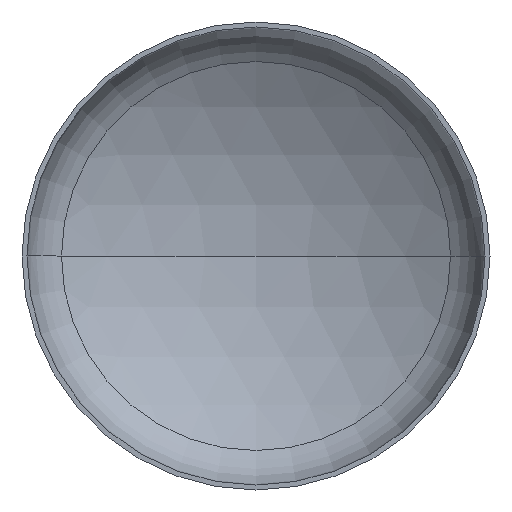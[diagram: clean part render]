
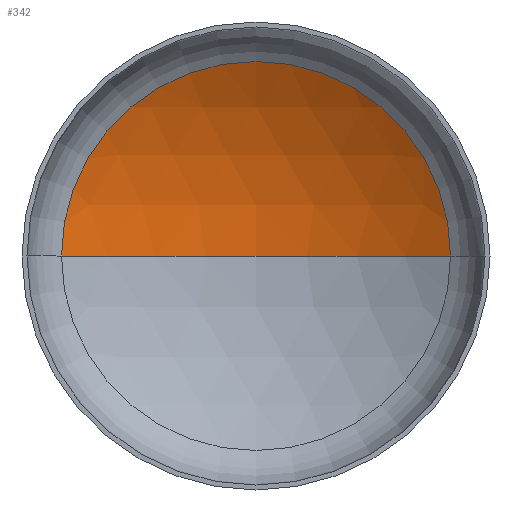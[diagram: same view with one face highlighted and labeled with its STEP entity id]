
A CAD part, front view. The second image highlights one B-rep face of the part: STEP entity #342.
In plain terms, the highlighted spherical face has radius 1200 mm.
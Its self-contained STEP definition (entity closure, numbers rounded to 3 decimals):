
#2 = DIRECTION ( 'NONE',  ( 0., 0., 1. ) ) ;
#18 = EDGE_LOOP ( 'NONE', ( #74, #63, #28 ) ) ;
#25 = AXIS2_PLACEMENT_3D ( 'NONE', #301, #400, #272 ) ;
#28 = ORIENTED_EDGE ( 'NONE', *, *, #170, .T. ) ;
#61 = VERTEX_POINT ( 'NONE', #358 ) ;
#63 = ORIENTED_EDGE ( 'NONE', *, *, #172, .T. ) ;
#74 = ORIENTED_EDGE ( 'NONE', *, *, #173, .F. ) ;
#101 = VERTEX_POINT ( 'NONE', #241 ) ;
#114 = VERTEX_POINT ( 'NONE', #239 ) ;
#116 = AXIS2_PLACEMENT_3D ( 'NONE', #300, #2, #245 ) ;
#122 = AXIS2_PLACEMENT_3D ( 'NONE', #193, #195, #196 ) ;
#124 = AXIS2_PLACEMENT_3D ( 'NONE', #225, #227, #214 ) ;
#170 = EDGE_CURVE ( 'NONE', #101, #114, #210, .T. ) ;
#172 = EDGE_CURVE ( 'NONE', #61, #101, #271, .T. ) ;
#173 = EDGE_CURVE ( 'NONE', #61, #114, #375, .T. ) ;
#193 = CARTESIAN_POINT ( 'NONE',  ( 0., -773.785, 0. ) ) ;
#195 = DIRECTION ( 'NONE',  ( 0., 0., -1. ) ) ;
#196 = DIRECTION ( 'NONE',  ( -1., 0., 0. ) ) ;
#210 = CIRCLE ( 'NONE', #124, 623.505 ) ;
#214 = DIRECTION ( 'NONE',  ( 1., 0., 0. ) ) ;
#225 = CARTESIAN_POINT ( 'NONE',  ( 0., 251.516, 0. ) ) ;
#227 = DIRECTION ( 'NONE',  ( 0., -1., 0. ) ) ;
#235 = SPHERICAL_SURFACE ( 'NONE', #25, 1200. ) ;
#239 = CARTESIAN_POINT ( 'NONE',  ( -623.505, 251.516, 0. ) ) ;
#241 = CARTESIAN_POINT ( 'NONE',  ( 623.505, 251.516, 0. ) ) ;
#245 = DIRECTION ( 'NONE',  ( 1., 0., 0. ) ) ;
#271 = CIRCLE ( 'NONE', #122, 1200. ) ;
#272 = DIRECTION ( 'NONE',  ( -1., 0., 0. ) ) ;
#292 = FACE_OUTER_BOUND ( 'NONE', #18, .T. ) ;
#300 = CARTESIAN_POINT ( 'NONE',  ( 0., -773.785, 0. ) ) ;
#301 = CARTESIAN_POINT ( 'NONE',  ( 0., -773.785, 0. ) ) ;
#342 = ADVANCED_FACE ( 'NONE', ( #292 ), #235, .F. ) ;
#358 = CARTESIAN_POINT ( 'NONE',  ( 0., 426.215, 0. ) ) ;
#375 = CIRCLE ( 'NONE', #116, 1200. ) ;
#400 = DIRECTION ( 'NONE',  ( 0., 0., -1. ) ) ;
